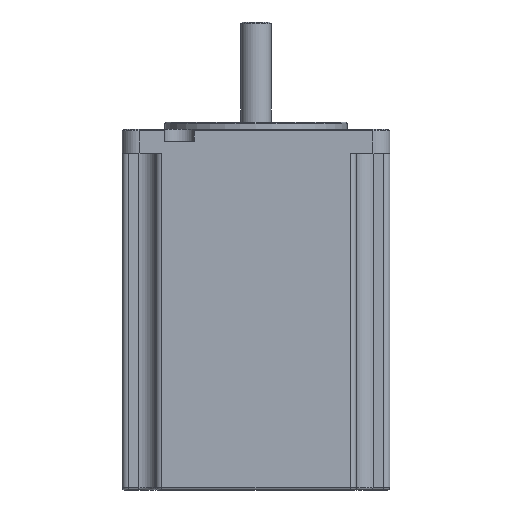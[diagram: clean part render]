
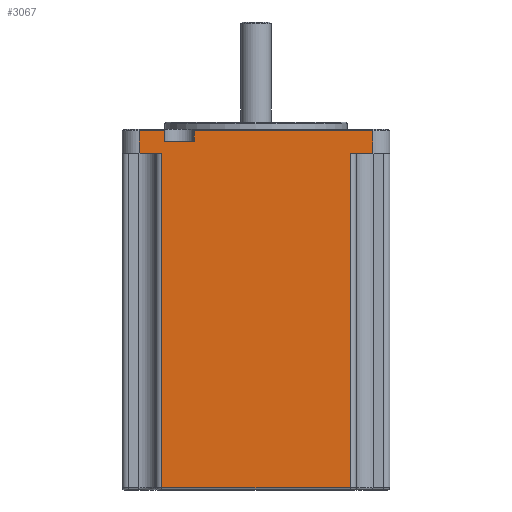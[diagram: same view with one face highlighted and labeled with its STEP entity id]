
A CAD part, front view. The second image highlights one B-rep face of the part: STEP entity #3067.
In plain terms, the highlighted planar face has unit normal (0, -1, 0).
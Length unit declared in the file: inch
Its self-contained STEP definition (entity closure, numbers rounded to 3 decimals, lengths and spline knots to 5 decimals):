
#232=DIRECTION('',(1.,0.,0.));
#233=VECTOR('',#232,0.19);
#234=CARTESIAN_POINT('',(0.78,-1.11,-0.2));
#235=LINE('',#234,#233);
#236=DIRECTION('',(1.,0.,0.));
#237=VECTOR('',#236,0.19);
#238=CARTESIAN_POINT('',(-0.97,-1.11,-0.2));
#239=LINE('',#238,#237);
#848=DIRECTION('',(-1.,0.,0.));
#849=VECTOR('',#848,1.56);
#850=CARTESIAN_POINT('',(0.78,-1.11,-2.97));
#851=LINE('',#850,#849);
#852=DIRECTION('',(0.,0.,-1.));
#853=VECTOR('',#852,2.77);
#854=CARTESIAN_POINT('',(-0.78,-1.11,-0.2));
#855=LINE('',#854,#853);
#856=DIRECTION('',(0.,0.,-1.));
#857=VECTOR('',#856,0.19);
#858=CARTESIAN_POINT('',(-0.97,-1.11,
-0.01));
#859=LINE('',#858,#857);
#860=DIRECTION('',(1.,0.,0.));
#861=VECTOR('',#860,0.21);
#862=CARTESIAN_POINT('',(-0.97,-1.11,
-0.01));
#863=LINE('',#862,#861);
#864=DIRECTION('',(0.,0.,-1.));
#865=VECTOR('',#864,0.09);
#866=CARTESIAN_POINT('',(-0.76,-1.11,-0.01));
#867=LINE('',#866,#865);
#868=DIRECTION('',(1.,0.,0.));
#869=VECTOR('',#868,0.25);
#870=CARTESIAN_POINT('',(-0.76,-1.11,-0.1));
#871=LINE('',#870,#869);
#872=DIRECTION('',(0.,0.,-1.));
#873=VECTOR('',#872,0.09);
#874=CARTESIAN_POINT('',(-0.51,-1.11,-0.01));
#875=LINE('',#874,#873);
#876=DIRECTION('',(1.,0.,0.));
#877=VECTOR('',#876,1.48);
#878=CARTESIAN_POINT('',(-0.51,-1.11,-0.01));
#879=LINE('',#878,#877);
#880=DIRECTION('',(0.,0.,1.));
#881=VECTOR('',#880,2.77);
#882=CARTESIAN_POINT('',(0.78,-1.11,-2.97));
#883=LINE('',#882,#881);
#957=DIRECTION('',(0.,0.,-1.));
#958=VECTOR('',#957,0.19);
#959=CARTESIAN_POINT('',(0.97,-1.11,
-0.01));
#960=LINE('',#959,#958);
#1455=CARTESIAN_POINT('',(-0.97,-1.11,-0.2));
#1457=VERTEX_POINT('',#1455);
#1458=CARTESIAN_POINT('',(0.97,-1.11,-0.2));
#1460=VERTEX_POINT('',#1458);
#1514=CARTESIAN_POINT('',(-0.76,-1.11,-0.1));
#1515=CARTESIAN_POINT('',(-0.51,-1.11,-0.1));
#1516=VERTEX_POINT('',#1514);
#1517=VERTEX_POINT('',#1515);
#1552=CARTESIAN_POINT('',(0.78,-1.11,-0.2));
#1553=VERTEX_POINT('',#1552);
#1554=CARTESIAN_POINT('',(-0.78,-1.11,-0.2));
#1555=VERTEX_POINT('',#1554);
#1620=CARTESIAN_POINT('',(0.97,-1.11,-0.01));
#1621=VERTEX_POINT('',#1620);
#1622=CARTESIAN_POINT('',(-0.51,-1.11,-0.01));
#1624=VERTEX_POINT('',#1622);
#1627=CARTESIAN_POINT('',(-0.76,-1.11,-0.01));
#1629=VERTEX_POINT('',#1627);
#1630=CARTESIAN_POINT('',(-0.97,-1.11,
-0.01));
#1631=VERTEX_POINT('',#1630);
#1688=CARTESIAN_POINT('',(0.78,-1.11,-2.97));
#1689=VERTEX_POINT('',#1688);
#1692=CARTESIAN_POINT('',(-0.78,-1.11,-2.97));
#1693=VERTEX_POINT('',#1692);
#3044=CARTESIAN_POINT('',(-0.97,-1.11,0.));
#3045=DIRECTION('',(0.,-1.,0.));
#3046=DIRECTION('',(1.,0.,0.));
#3047=AXIS2_PLACEMENT_3D('',#3044,#3045,#3046);
#3048=PLANE('',#3047);
#3049=ORIENTED_EDGE('',*,*,#2386,.T.);
#3051=ORIENTED_EDGE('',*,*,#3050,.F.);
#3052=ORIENTED_EDGE('',*,*,#2005,.F.);
#3054=ORIENTED_EDGE('',*,*,#3053,.F.);
#3055=ORIENTED_EDGE('',*,*,#2756,.T.);
#3056=ORIENTED_EDGE('',*,*,#2774,.T.);
#3057=ORIENTED_EDGE('',*,*,#3011,.T.);
#3058=ORIENTED_EDGE('',*,*,#2800,.F.);
#3059=ORIENTED_EDGE('',*,*,#2818,.T.);
#3061=ORIENTED_EDGE('',*,*,#3060,.T.);
#3062=ORIENTED_EDGE('',*,*,#1987,.F.);
#3064=ORIENTED_EDGE('',*,*,#3063,.F.);
#3065=EDGE_LOOP('',(#3049,#3051,#3052,#3054,#3055,#3056,#3057,#3058,#3059,#3061,
#3062,#3064));
#3066=FACE_OUTER_BOUND('',#3065,.F.);
#3067=ADVANCED_FACE('',(#3066),#3048,.T.);
#1987=EDGE_CURVE('',#1553,#1460,#235,.T.);
#2005=EDGE_CURVE('',#1457,#1555,#239,.T.);
#2386=EDGE_CURVE('',#1689,#1693,#851,.T.);
#2756=EDGE_CURVE('',#1631,#1629,#863,.T.);
#2774=EDGE_CURVE('',#1629,#1516,#867,.T.);
#2800=EDGE_CURVE('',#1624,#1517,#875,.T.);
#2818=EDGE_CURVE('',#1624,#1621,#879,.T.);
#3011=EDGE_CURVE('',#1516,#1517,#871,.T.);
#3050=EDGE_CURVE('',#1555,#1693,#855,.T.);
#3053=EDGE_CURVE('',#1631,#1457,#859,.T.);
#3060=EDGE_CURVE('',#1621,#1460,#960,.T.);
#3063=EDGE_CURVE('',#1689,#1553,#883,.T.);
